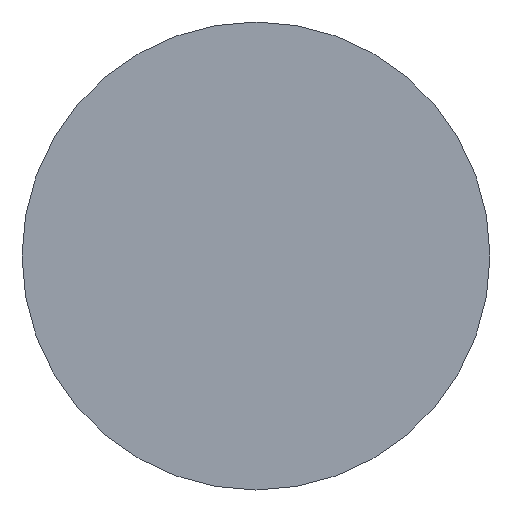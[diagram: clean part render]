
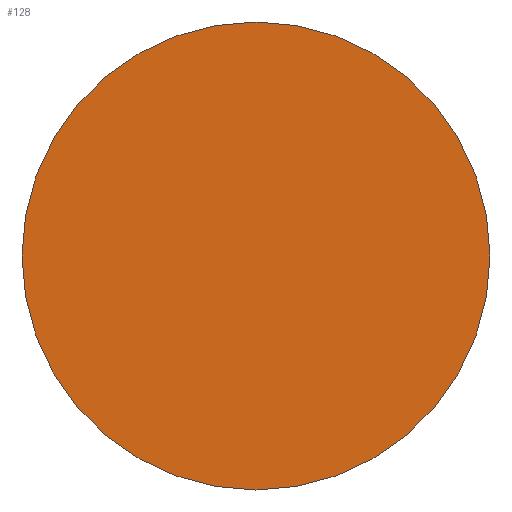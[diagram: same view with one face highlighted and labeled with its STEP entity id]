
A CAD part, left-side view. The second image highlights one B-rep face of the part: STEP entity #128.
In plain terms, the highlighted planar face has unit normal (-1, 0, 0).
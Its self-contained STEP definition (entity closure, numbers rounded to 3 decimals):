
#21 = PLANE ( 'NONE',  #121 ) ;
#33 = DIRECTION ( 'NONE',  ( -1., 0., 0. ) ) ;
#35 = DIRECTION ( 'NONE',  ( 0., 0., 1. ) ) ;
#37 = CARTESIAN_POINT ( 'NONE',  ( -442., 0., 0. ) ) ;
#38 = DIRECTION ( 'NONE',  ( 0., 0., 1. ) ) ;
#40 = DIRECTION ( 'NONE',  ( -1., 0., 0. ) ) ;
#54 = VERTEX_POINT ( 'NONE', #134 ) ;
#55 = VERTEX_POINT ( 'NONE', #60 ) ;
#60 = CARTESIAN_POINT ( 'NONE',  ( -442., 0., -5.5 ) ) ;
#77 = ORIENTED_EDGE ( 'NONE', *, *, #104, .T. ) ;
#85 = ORIENTED_EDGE ( 'NONE', *, *, #110, .T. ) ;
#86 = FACE_OUTER_BOUND ( 'NONE', #126, .T. ) ;
#87 = CIRCLE ( 'NONE', #106, 5.5 ) ;
#92 = CIRCLE ( 'NONE', #107, 5.5 ) ;
#104 = EDGE_CURVE ( 'NONE', #54, #55, #87, .T. ) ;
#106 = AXIS2_PLACEMENT_3D ( 'NONE', #140, #133, #139 ) ;
#107 = AXIS2_PLACEMENT_3D ( 'NONE', #135, #40, #35 ) ;
#110 = EDGE_CURVE ( 'NONE', #55, #54, #92, .T. ) ;
#121 = AXIS2_PLACEMENT_3D ( 'NONE', #37, #33, #38 ) ;
#126 = EDGE_LOOP ( 'NONE', ( #77, #85 ) ) ;
#128 = ADVANCED_FACE ( 'NONE', ( #86 ), #21, .T. ) ;
#133 = DIRECTION ( 'NONE',  ( -1., 0., 0. ) ) ;
#134 = CARTESIAN_POINT ( 'NONE',  ( -442., 0., 5.5 ) ) ;
#135 = CARTESIAN_POINT ( 'NONE',  ( -442., 0., 0. ) ) ;
#139 = DIRECTION ( 'NONE',  ( 0., 0., 1. ) ) ;
#140 = CARTESIAN_POINT ( 'NONE',  ( -442., 0., 0. ) ) ;
